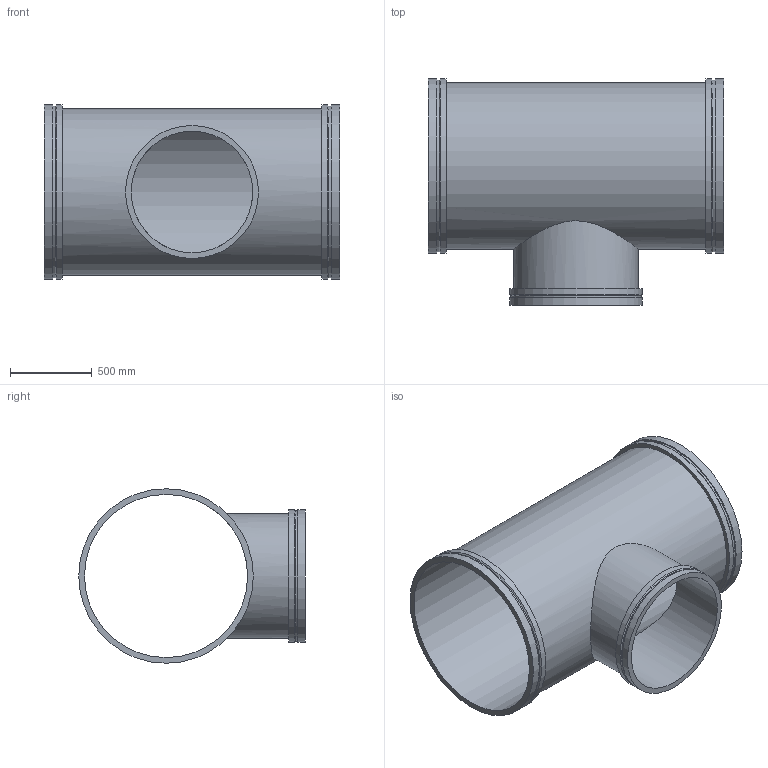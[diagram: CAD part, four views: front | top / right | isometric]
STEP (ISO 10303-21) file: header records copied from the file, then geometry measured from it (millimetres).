
FILE_DESCRIPTION(/* description */ ('VIC REDUCING TEE No W025 VR','CAx-IF Rec.Pracs.---Representation and Presentation of Product Manufacturing Information (PMI)---4.0---2014-10-13'),/* implementation_level */ '2;1');
FILE_NAME(/* name */ 'C:\Users\kkamble\AppData\Roaming\Autodesk\ApplicationPlugins\Back Up\Victaulic_Vic-Ring_Tee Reducing_No W25 VR (AGR)\Victaulic_Vic-Ring_Tee Reducing_No W25 VR (AGR)_40.0x30.0 (1000x750).stp',/* time_stamp */ '2020-09-10T11:55:46+05:00',/* author */ ('mchristi'),/* organization */ ('Victaulic'),/* preprocessor_version */ 'ST-DEVELOPER v17.2',/* originating_system */ 'Autodesk Inventor 2019',/* authorisation */ '');
FILE_SCHEMA (('AP242_MANAGED_MODEL_BASED_3D_ENGINEERING_MIM_LF { 1 0 10303 442 1 1 4 }'));
Length unit declared in the file: inch
Products named in the file (1): W25 VR-40.0x30.0
Bounding box: 1803.4 x 1384.3 x 1066.8 mm (x, y, z)
Volume: 82474403.5 mm3; surface area: 13150150.9 mm2
Topology: 1 solids, 1 shells, 25 faces, 68 edges, 52 vertices
Faces by surface type: cylinder 13, plane 9, cone 3
Full cylindrical faces by diameter (mm): 742.95 x1, 762 x1, 798.322 x1, 812.8 x2, 996.95 x1, 1016 x1, 1050.925 x2, 1066.8 x4
Entity records: 1259 total; most frequent: CARTESIAN_POINT 415, DIRECTION 190, ORIENTED_EDGE 136, AXIS2_PLACEMENT_3D 87, EDGE_CURVE 68, VERTEX_POINT 52, CIRCLE 48, EDGE_LOOP 36
